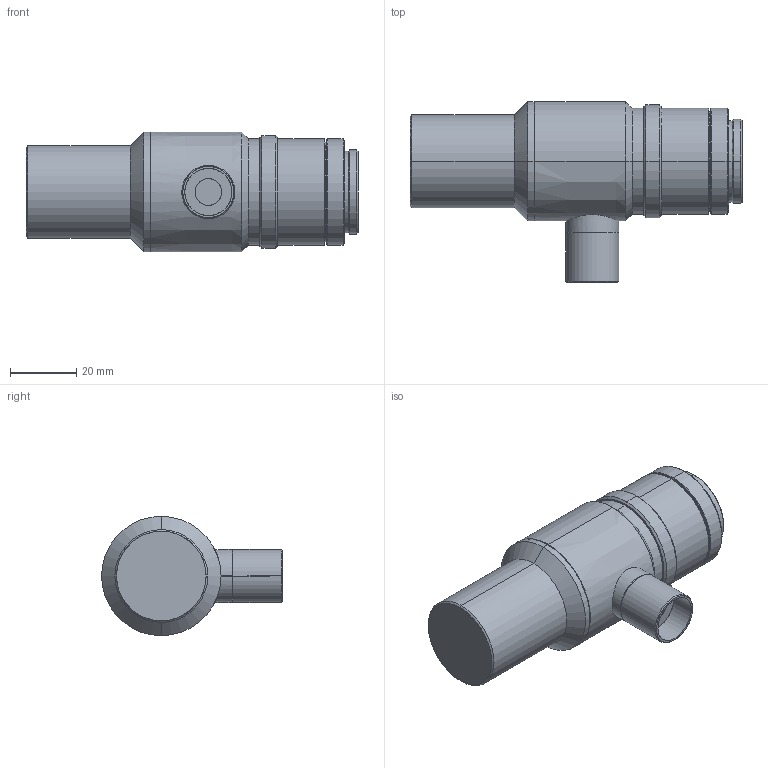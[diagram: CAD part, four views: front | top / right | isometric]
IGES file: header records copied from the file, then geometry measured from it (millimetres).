
Start section: SolidWorks IGES file using analytic representation for surfaces
Bounding box: 100.1 x 54.5 x 36 mm (x, y, z)
Surface area: 13474 mm2 (no closed solid volume)
Topology: 0 solids, 0 shells, 72 faces, 1154 edges, 1154 vertices
Faces by surface type: revolution 62, bspline 10
